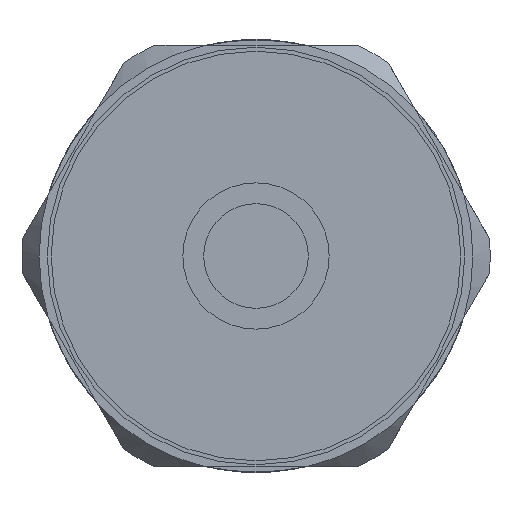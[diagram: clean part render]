
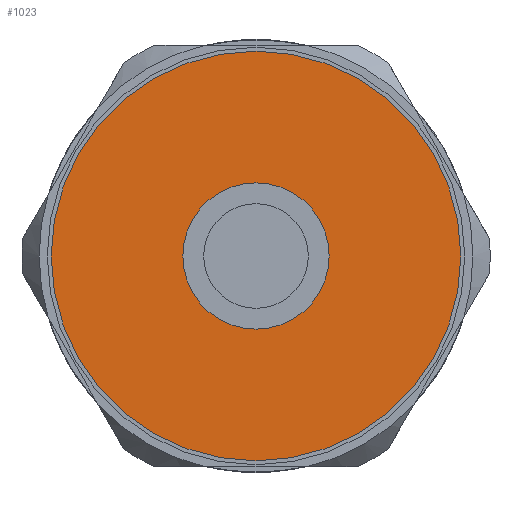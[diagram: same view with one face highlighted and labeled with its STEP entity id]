
A CAD part, left-side view. The second image highlights one B-rep face of the part: STEP entity #1023.
In plain terms, the highlighted planar face has unit normal (-1, 0, 0).
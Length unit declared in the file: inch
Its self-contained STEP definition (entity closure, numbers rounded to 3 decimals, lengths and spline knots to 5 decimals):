
#60=FACE_BOUND('',#181,.T.);
#84=PLANE('',#1134);
#123=FACE_OUTER_BOUND('',#180,.T.);
#180=EDGE_LOOP('',(#794,#795));
#181=EDGE_LOOP('',(#796,#797));
#302=CIRCLE('',#1079,0.14764);
#303=CIRCLE('',#1080,0.14764);
#332=CIRCLE('',#1135,0.41339);
#333=CIRCLE('',#1136,0.41339);
#386=VERTEX_POINT('',#1540);
#387=VERTEX_POINT('',#1541);
#440=VERTEX_POINT('',#1749);
#441=VERTEX_POINT('',#1750);
#492=EDGE_CURVE('',#386,#387,#302,.T.);
#493=EDGE_CURVE('',#387,#386,#303,.T.);
#573=EDGE_CURVE('',#440,#441,#332,.T.);
#574=EDGE_CURVE('',#441,#440,#333,.T.);
#794=ORIENTED_EDGE('',*,*,#573,.T.);
#795=ORIENTED_EDGE('',*,*,#574,.T.);
#796=ORIENTED_EDGE('',*,*,#492,.T.);
#797=ORIENTED_EDGE('',*,*,#493,.T.);
#1023=ADVANCED_FACE('',(#123,#60),#84,.T.);
#1079=AXIS2_PLACEMENT_3D('',#1542,#1227,#1228);
#1080=AXIS2_PLACEMENT_3D('',#1543,#1229,#1230);
#1134=AXIS2_PLACEMENT_3D('',#1748,#1364,#1365);
#1135=AXIS2_PLACEMENT_3D('',#1751,#1366,#1367);
#1136=AXIS2_PLACEMENT_3D('',#1752,#1368,#1369);
#1227=DIRECTION('center_axis',(1.,0.,0.));
#1228=DIRECTION('ref_axis',(0.,0.866,-0.5));
#1229=DIRECTION('center_axis',(1.,0.,0.));
#1230=DIRECTION('ref_axis',(0.,0.866,-0.5));
#1364=DIRECTION('center_axis',(-1.,0.,0.));
#1365=DIRECTION('ref_axis',(0.,0.866,-0.5));
#1366=DIRECTION('center_axis',(-1.,0.,0.));
#1367=DIRECTION('ref_axis',(0.,0.866,-0.5));
#1368=DIRECTION('center_axis',(-1.,0.,0.));
#1369=DIRECTION('ref_axis',(0.,0.866,-0.5));
#1540=CARTESIAN_POINT('',(-2.25408,0.22916,-0.41816));
#1541=CARTESIAN_POINT('',(-2.25408,-0.02656,-0.27052));
#1542=CARTESIAN_POINT('Origin',(-2.25408,0.1013,-0.34434));
#1543=CARTESIAN_POINT('Origin',(-2.25408,0.1013,-0.34434));
#1748=CARTESIAN_POINT('Origin',(-2.25408,0.1013,-0.34434));
#1749=CARTESIAN_POINT('',(-2.25408,0.4593,-0.55103));
#1750=CARTESIAN_POINT('',(-2.25408,-0.2567,-0.13765));
#1751=CARTESIAN_POINT('Origin',(-2.25408,0.1013,-0.34434));
#1752=CARTESIAN_POINT('Origin',(-2.25408,0.1013,-0.34434));
